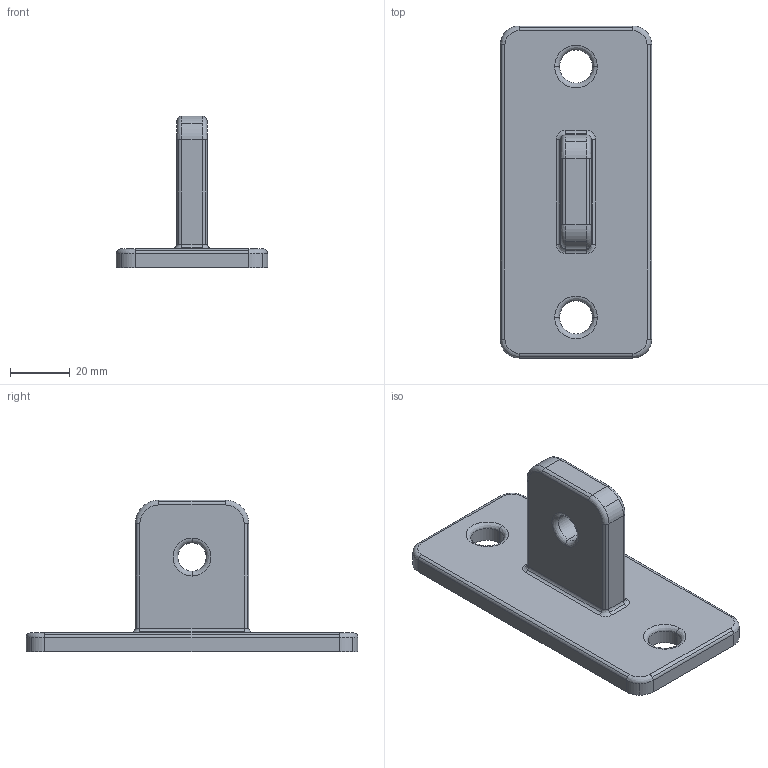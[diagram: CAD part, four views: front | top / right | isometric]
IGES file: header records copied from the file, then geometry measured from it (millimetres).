
Global section: file name: C:\Documents and Settings\Administrator\Desktop\Transfer Temp\m-58.igs; native system: AutoDesk Inventor R2.0 ; preprocessor: AutoDesk Inventor Iges Exporter R2.0; author: No Author specified; organization: No Organization specified; date: 20011231.175557; units: inch
Bounding box: 50.8 x 111.25 x 50.8 mm (x, y, z)
Surface area: 17082.8 mm2 (no closed solid volume)
Topology: 0 solids, 0 shells, 77 faces, 380 edges, 380 vertices
Faces by surface type: revolution 56, bspline 21
